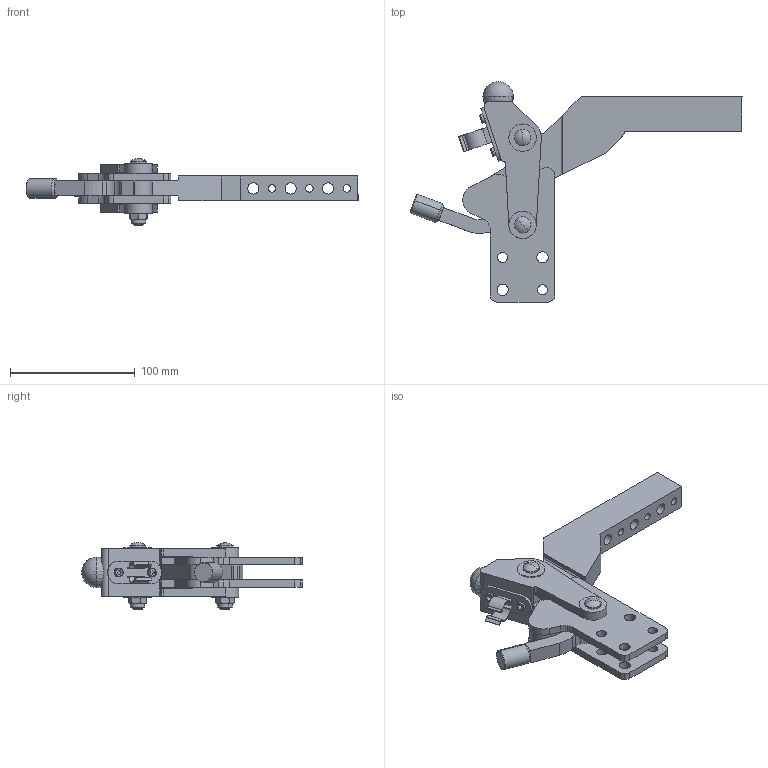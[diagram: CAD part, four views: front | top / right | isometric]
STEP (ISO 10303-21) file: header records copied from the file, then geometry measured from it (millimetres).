
FILE_DESCRIPTION((''),'2;1');
FILE_NAME('C:\Documents and Settings\clare\My Documents\STPS\M20-01-127-RM1.stp','2009-11-29T21:50:05',('clare'),(''),'Autodesk Inventor 8','Autodesk Inventor 8','');
FILE_SCHEMA(('AUTOMOTIVE_DESIGN { 1 0 10303 214 1 1 1 1 }'));
Length unit declared in the file: millimetre
Products named in the file (6): M20-01-127-RM1; M20-01-127-RM11; M20-01-127-RM12; M20-01-127-RM13; M20-01-127-RM14; M20-01-127-RM15
Assembly tree (5 placements, depth 2):
  M20-01-127-RM1
    M20-01-127-RM11
    M20-01-127-RM12
    M20-01-127-RM13
    M20-01-127-RM14
    M20-01-127-RM15
Bounding box: 266.29 x 176.91 x 53.77 mm (x, y, z)
Volume: 286332.7 mm3; surface area: 92016.9 mm2
Topology: 5 solids, 10 shells, 457 faces, 1179 edges, 758 vertices
Faces by surface type: plane 231, cylinder 132, bspline 60, cone 24, sphere 6, torus 4
Entity records: 14973 total; most frequent: CARTESIAN_POINT 3500, DIRECTION 2443, ORIENTED_EDGE 2344, EDGE_CURVE 1172, AXIS2_PLACEMENT_3D 889, VERTEX_POINT 757, VECTOR 665, LINE 665
